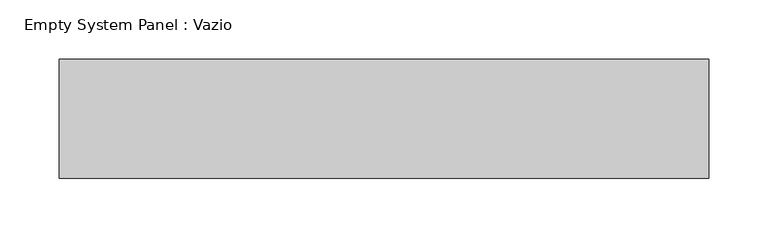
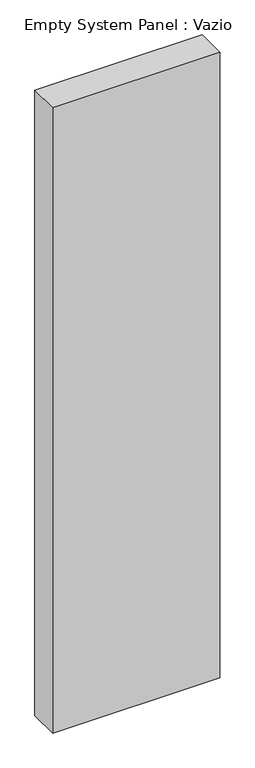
"""IFC4 building model written with IfcOpenShell, lengths in millimetres: plate geometry, Empty System Panel : Vazio."""

from ifc_helpers import new_model, si_unit, origin, origin_with_axes, place, context, project, spatial, polyline, outline, extrude, source, transform, mapped, element, save


def empty_system_panel_vazio_2c78850d(model_context):
    return source(origin(), model_context, "Body", "SweptSolid", [
        extrude(outline(polyline([(273.5273784, 50.0), (-273.5273784, 50.0), (-273.5273784, 150.0), (273.5273784, 150.0), (273.5273784, 50.0)])), origin_with_axes(), (0.0, 0.0, 1.0), 2159.7393248),
    ])


if __name__ == "__main__":
    model = new_model("IFC4")
    model_context = context("Model", 3, world=origin())
    ifc_project = project(units=[si_unit("LENGTHUNIT", "METRE", prefix="MILLI")], contexts=[model_context])
    site = spatial("IfcSite", under=ifc_project)
    building = spatial("IfcBuilding", under=site)
    placement = place(None, origin())
    empty_system_panel_vazio_shape = empty_system_panel_vazio_2c78850d(model_context)
    element("IfcPlate", 1, ObjectType="Empty System Panel : Vazio", at=placement, inside=building, context=model_context, shape_type="MappedRepresentation", body=[
        mapped(empty_system_panel_vazio_shape, transform((0.0, 0.0, 0.0), x_axis=(1.0, 0.0, 0.0), y_axis=(0.0, 1.0, 0.0), z_axis=(0.0, 0.0, 1.0))),
    ])
    save(model, "model.ifc")
